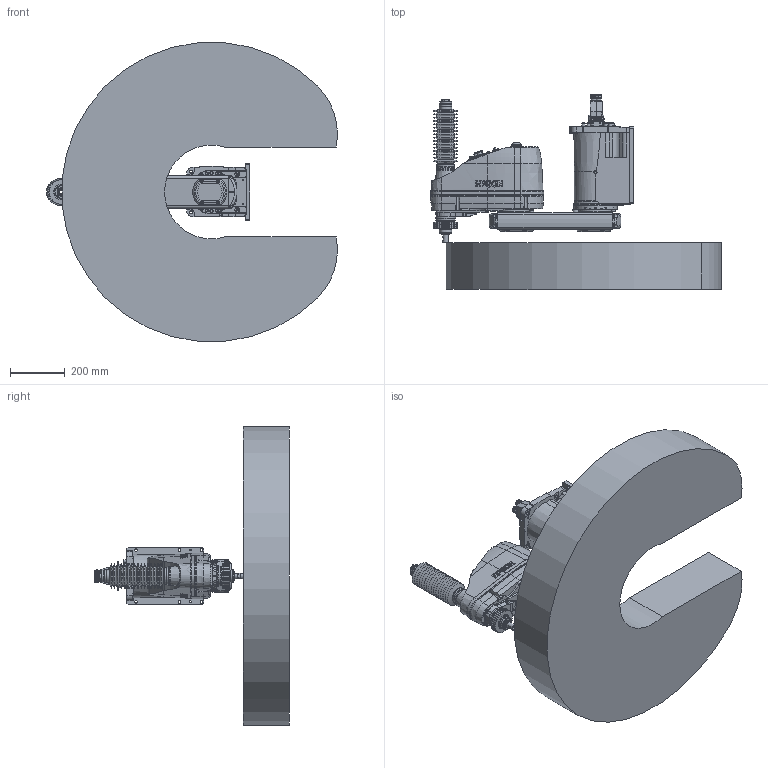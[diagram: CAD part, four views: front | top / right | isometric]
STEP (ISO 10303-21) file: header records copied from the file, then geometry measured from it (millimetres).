
FILE_DESCRIPTION( ( 'STEP AP214' ), '1' );
FILE_NAME( 'C:/Users/9607552/Desktop/GX8-B552CW_straight.stp', '2023-07-07T02:40:57', ( '' ), ( '' ), ' ', 'PARTsolutions', ' ' );
FILE_SCHEMA( ( 'AUTOMOTIVE_DESIGN { 1 0 10303 214 1 1 1 1 }' ) );
Length unit declared in the file: millimetre
Products named in the file (11): GX8-B552CWS-W; _B552CW_BASE; _B552CR; _B552CR_1; _B552CR_2; _B452C_J2; _B452CZA; _1-B-long; _1-B-short; _Straight-B; _GX8-18-B_WS
Assembly tree (12 placements, depth 2):
  GX8-B552CWS-W
    _B552CW_BASE
    _B552CR
    _B552CR_1  x2
    _B552CR_2  x2
    _B452C_J2
    _B452CZA
    _1-B-long
    _1-B-short
    _Straight-B
    _GX8-18-B_WS
Bounding box: 1066.99 x 714.85 x 1095.81 mm (x, y, z)
Volume: 145705191.8 mm3; surface area: 3689789.1 mm2
Topology: 12 solids, 16 shells, 3342 faces, 8072 edges, 5218 vertices
Faces by surface type: plane 1617, cylinder 1089, cone 432, torus 162, bspline 37, sphere 5
Full cylindrical faces by diameter (mm): 1 x48, 1.18 x55, 2.261 x4, 2.459 x12, 3 x32, 3.242 x18, 3.3 x4, 3.9 x4, 4.2 x8, 4.5 x12, 4.8 x5, 5.34 x4, 5.5 x17, 6 x6, 6.2 x4, 6.647 x4, 6.8 x2, 7 x42, 8 x5, 8.5 x4, 9 x24, 10 x24, 11 x4, 11.2 x5, 11.5 x1, 12 x5, 12.2 x1, 12.25 x1, 13 x7, 13.2 x12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
Entity records: 118727 total; most frequent: CARTESIAN_POINT 22141, DIRECTION 14808, ORIENTED_EDGE 13342, EDGE_CURVE 6671, AXIS2_PLACEMENT_3D 5796, VERTEX_POINT 4826, EDGE_LOOP 4525, FACE_OUTER_BOUND 3759
